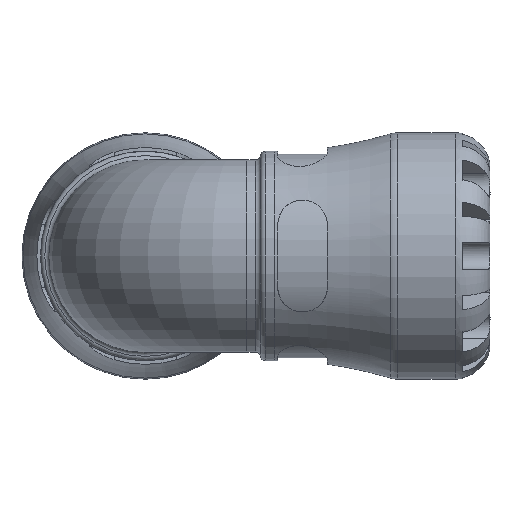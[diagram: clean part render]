
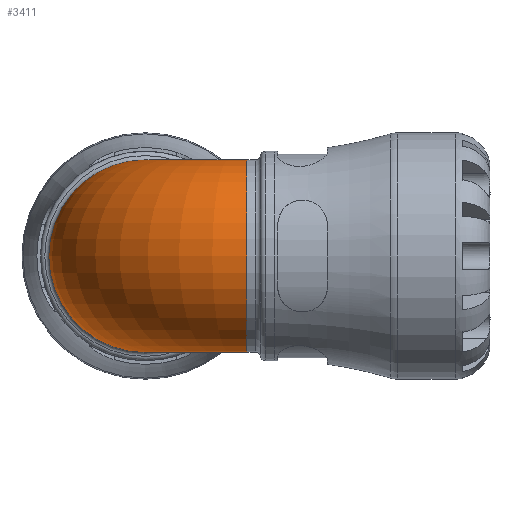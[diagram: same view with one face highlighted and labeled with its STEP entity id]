
A CAD part, front view. The second image highlights one B-rep face of the part: STEP entity #3411.
In plain terms, the highlighted toroidal (fillet/blend) face has major radius 23.843 mm and minor radius 22.586 mm.
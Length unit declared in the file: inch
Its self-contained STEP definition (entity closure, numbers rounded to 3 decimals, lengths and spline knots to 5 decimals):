
#681=FACE_OUTER_BOUND('',#877,.T.);
#877=EDGE_LOOP('',(#2165,#2166,#2167,#2168,#2169,#2170));
#1087=CIRCLE('',#3633,0.8892);
#1088=CIRCLE('',#3634,0.0495);
#1089=CIRCLE('',#3635,0.8892);
#1090=CIRCLE('',#3636,0.8892);
#1091=CIRCLE('',#3637,0.8892);
#1307=VERTEX_POINT('',#5063);
#1308=VERTEX_POINT('',#5064);
#1309=VERTEX_POINT('',#5066);
#1310=VERTEX_POINT('',#5068);
#1643=EDGE_CURVE('',#1307,#1308,#1087,.T.);
#1644=EDGE_CURVE('',#1307,#1309,#1088,.T.);
#1645=EDGE_CURVE('',#1310,#1309,#1089,.T.);
#1646=EDGE_CURVE('',#1309,#1310,#1090,.T.);
#1647=EDGE_CURVE('',#1308,#1307,#1091,.T.);
#2165=ORIENTED_EDGE('',*,*,#1643,.F.);
#2166=ORIENTED_EDGE('',*,*,#1644,.T.);
#2167=ORIENTED_EDGE('',*,*,#1645,.F.);
#2168=ORIENTED_EDGE('',*,*,#1646,.F.);
#2169=ORIENTED_EDGE('',*,*,#1644,.F.);
#2170=ORIENTED_EDGE('',*,*,#1647,.F.);
#3202=TOROIDAL_SURFACE('',#3632,0.9387,0.8892);
#3411=ADVANCED_FACE('',(#681),#3202,.T.);
#3632=AXIS2_PLACEMENT_3D('',#5062,#4057,#4058);
#3633=AXIS2_PLACEMENT_3D('',#5065,#4059,#4060);
#3634=AXIS2_PLACEMENT_3D('',#5067,#4061,#4062);
#3635=AXIS2_PLACEMENT_3D('',#5069,#4063,#4064);
#3636=AXIS2_PLACEMENT_3D('',#5070,#4065,#4066);
#3637=AXIS2_PLACEMENT_3D('',#5071,#4067,#4068);
#4057=DIRECTION('center_axis',(0.,0.,1.));
#4058=DIRECTION('ref_axis',(1.,0.,0.));
#4059=DIRECTION('center_axis',(1.,0.,0.));
#4060=DIRECTION('ref_axis',(0.,0.,-1.));
#4061=DIRECTION('center_axis',(0.,0.,-1.));
#4062=DIRECTION('ref_axis',(1.,0.,0.));
#4063=DIRECTION('center_axis',(0.,1.,0.));
#4064=DIRECTION('ref_axis',(0.,0.,-1.));
#4065=DIRECTION('center_axis',(0.,1.,0.));
#4066=DIRECTION('ref_axis',(0.,0.,-1.));
#4067=DIRECTION('center_axis',(1.,0.,0.));
#4068=DIRECTION('ref_axis',(0.,0.,-1.));
#5062=CARTESIAN_POINT('Origin',(0.9387,0.9387,0.));
#5063=CARTESIAN_POINT('',(0.9387,0.8892,0.));
#5064=CARTESIAN_POINT('',(0.9387,-0.8892,0.));
#5065=CARTESIAN_POINT('Origin',(0.9387,0.,0.));
#5066=CARTESIAN_POINT('',(0.8892,0.9387,0.));
#5067=CARTESIAN_POINT('Origin',(0.9387,0.9387,0.));
#5068=CARTESIAN_POINT('',(0.,0.9387,-0.8892));
#5069=CARTESIAN_POINT('Origin',(0.,0.9387,0.));
#5070=CARTESIAN_POINT('Origin',(0.,0.9387,0.));
#5071=CARTESIAN_POINT('Origin',(0.9387,0.,0.));
